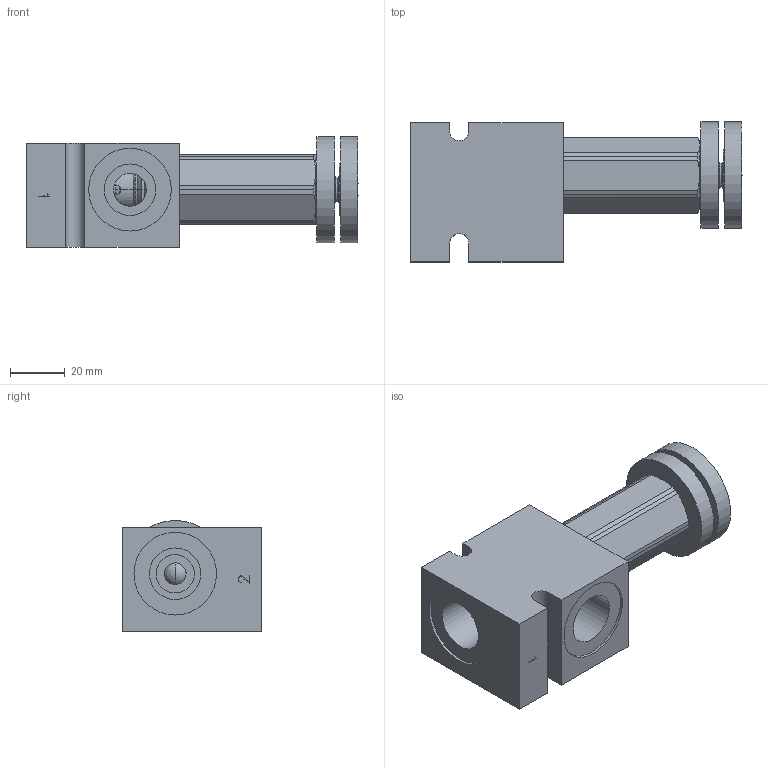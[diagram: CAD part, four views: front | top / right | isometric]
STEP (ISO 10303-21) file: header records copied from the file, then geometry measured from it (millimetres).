
FILE_DESCRIPTION( ( 'Unknown' ), '1' );
FILE_NAME( 'G:/Graphic Design/Graphic Design 2/Data Sheets/PRESSURE CONTROLS/2_STEP/Direct Acting Relief Valves/D-DERWA0K-C2.stp', 'Unknown', ( 'Unknown' ), ( 'Unknown' ), 'PSStep 16.0.42', 'Unknown', ' ' );
FILE_SCHEMA( ( 'AUTOMOTIVE_DESIGN { 1 0 10303 214 1 1 1 1 }' ) );
Length unit declared in the file: millimetre
Products named in the file (11): DERWA0K; DERWA0K-3D Full1; DERWA0K-3D Full2; DERWA0K-3D Full3; DERWA0K-3D Full5; DERWA0K-3D Full6; DERWA0K-3D Full4; Assem1; B-DDEC2
Assembly tree (10 placements, depth 3):
  Assem1
    B-DDEC2
    DERWA0K
      DERWA0K-3D Full1
      DERWA0K-3D Full2
      DERWA0K-3D Full3
      DERWA0K-3D Full5
      DERWA0K-3D Full6
      DERWA0K-3D Full4
      DERWA0K-3D Full4
      DERWA0K-3D Full4
Bounding box: 121.29 x 51.13 x 40.53 mm (x, y, z)
Surface area: 35050.9 mm2 (no closed solid volume)
Topology: 0 solids, 296 shells, 296 faces, 1350 edges, 1312 vertices
Faces by surface type: cone 115, plane 100, cylinder 71, torus 6, revolution 4
Full cylindrical faces by diameter (mm): 0.2 x2, 9.525 x2, 12 x1, 13.043 x1, 14 x1, 15.735 x1, 15.9 x1, 17.043 x1, 18.8 x4, 19.05 x2, 20.262 x2, 30.17 x2, 30.175 x1, 38.862 x2
Entity records: 19226 total; most frequent: CARTESIAN_POINT 7280, DIRECTION 1764, VERTEX_POINT 1302, ORIENTED_EDGE 1300, EDGE_CURVE 1300, AXIS2_PLACEMENT_3D 644, LINE 472, B_SPLINE_CURVE_WITH_KNOTS 472
